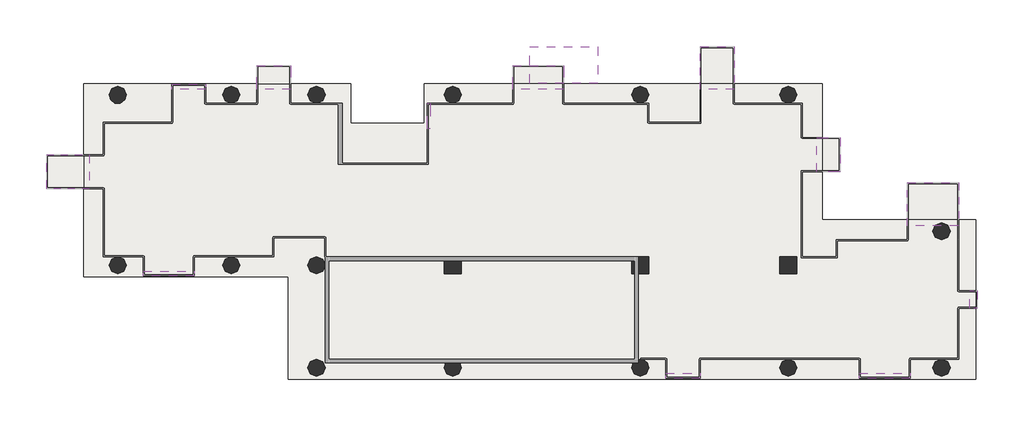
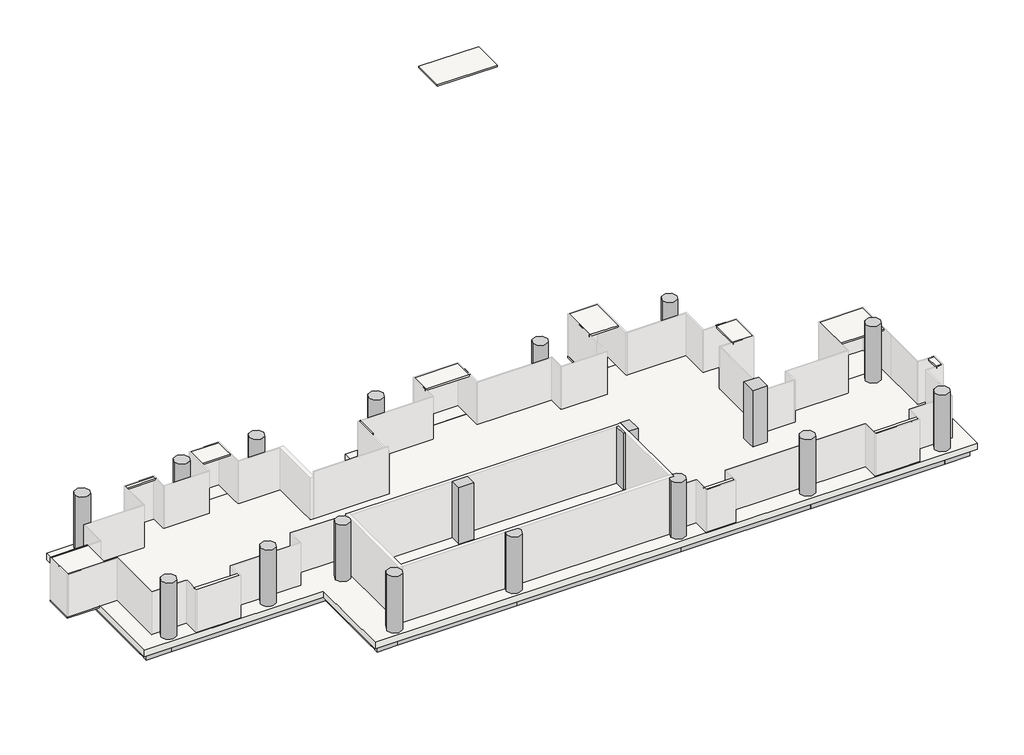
# One storey, part 2 of 2: 40 slabs, 25 beams, 18 columns.
"""IFC4 building model written with IfcOpenShell, lengths in millimetres."""

from ifc_helpers import new_model, si_unit, point, frame, frame_2d, origin, place, context, project, spatial, polyline, circle_curve, trimmed, segment, composite_curve, outline, extrude, transform, mapped, element, save
from components import ajn_arc_ossature_rec_ba_700x600_5242ffbb, ajn_arc_ossature_rec_ba_700x600_213c05e2, ajn_arc_ossature_rec_ba_700x600_4d623bda, ajn_arc_ossature_rec_ba_700x600_c2a8f1af, ajn_arc_ossature_rec_ba_700x600_b2f97811, ajn_arc_ossature_rec_ba_700x600_e688680c, ajn_arc_ossature_rec_ba_700x600_8adee879, ajn_arc_ossature_rec_ba_700x600_6677e51c, ajn_arc_ossature_rec_ba_700x600_60e35d56, ajn_arc_ossature_rec_ba_700x600_9ae0f913, ajn_arc_ossature_rec_ba_700x600_5c14351b, ajn_arc_ossature_rec_ba_700x600_e883967f, ajn_arc_ossature_rec_ba_700x600_0984b03c, ajn_arc_ossature_rec_ba_700x600_78f846f2, ajn_arc_ossature_rec_ba_700x600_e869caa8, ajn_arc_ossature_rec_ba_700x600_0388eb48, ajn_arc_ossature_rec_ba_700x600_e143517c, ajn_arc_ossature_rec_ba_700x600_758f1bfa, ajn_arc_ossature_rec_ba_700x600_64ba80e1, ajn_arc_poteau_circulaire_03b0aea2

model = new_model("IFC4")

# Units and contexts
model_context = context("Model", 3, world=origin())
ifc_project = project(units=[si_unit("LENGTHUNIT", "METRE", prefix="MILLI")], contexts=[model_context])

# Site, building, storey
site = spatial("IfcSite", under=ifc_project)
building = spatial("IfcBuilding", under=site)
storey = spatial("IfcBuildingStorey", under=building, Name="TW-L 12", Elevation=42399.9999686)

# Beams
placement = place(None, origin())
ajn_arc_ossature_rec_ba_700x600_shape = ajn_arc_ossature_rec_ba_700x600_5242ffbb(model_context)
element("IfcBeam", 1, ObjectType="AJN-ARC-OSSATURE REC-BA : 700x600", at=placement, inside=storey, context=model_context, shape_type="MappedRepresentation", body=[
    mapped(ajn_arc_ossature_rec_ba_700x600_shape, transform((119350.0, 39300.0, 41849.9999686), x_axis=(-1.0, 0.0, 0.0), y_axis=(0.0, -1.0, 0.0), z_axis=(0.0, 0.0, 1.0))),
])
ajn_arc_ossature_rec_ba_700x600_2_shape = ajn_arc_ossature_rec_ba_700x600_213c05e2(model_context)
element("IfcBeam", 2, ObjectType="AJN-ARC-OSSATURE REC-BA : 700x600", at=placement, inside=storey, context=model_context, shape_type="MappedRepresentation", body=[
    mapped(ajn_arc_ossature_rec_ba_700x600_2_shape, transform((100900.0, 34800.0, 41849.9999686), x_axis=(0.0, -1.0, 0.0), y_axis=(1.0, 0.0, 0.0), z_axis=(0.0, 0.0, 1.0))),
])
ajn_arc_ossature_rec_ba_700x600_3_shape = ajn_arc_ossature_rec_ba_700x600_4d623bda(model_context)
element("IfcBeam", 3, ObjectType="AJN-ARC-OSSATURE REC-BA : 700x600", at=placement, inside=storey, context=model_context, shape_type="MappedRepresentation", body=[
    mapped(ajn_arc_ossature_rec_ba_700x600_3_shape, transform((112150.0, 24900.0, 41849.9999686), x_axis=(1.0, 0.0, 0.0), y_axis=(0.0, 1.0, 0.0), z_axis=(0.0, 0.0, 1.0))),
])
ajn_arc_ossature_rec_ba_700x600_4_shape = ajn_arc_ossature_rec_ba_700x600_c2a8f1af(model_context)
element("IfcBeam", 4, ObjectType="AJN-ARC-OSSATURE REC-BA : 700x600", at=placement, inside=storey, context=model_context, shape_type="MappedRepresentation", body=[
    mapped(ajn_arc_ossature_rec_ba_700x600_4_shape, transform((116200.0, 24900.0, 41849.9999686), x_axis=(1.0, 0.0, 0.0), y_axis=(0.0, 1.0, 0.0), z_axis=(0.0, 0.0, 1.0))),
])
ajn_arc_ossature_rec_ba_700x600_5_shape = ajn_arc_ossature_rec_ba_700x600_b2f97811(model_context)
element("IfcBeam", 5, ObjectType="AJN-ARC-OSSATURE REC-BA : 700x600", at=placement, inside=storey, context=model_context, shape_type="MappedRepresentation", body=[
    mapped(ajn_arc_ossature_rec_ba_700x600_5_shape, transform((106900.0, 30300.0, 41849.9999686), x_axis=(1.0, 0.0, 0.0), y_axis=(0.0, 1.0, 0.0), z_axis=(0.0, 0.0, 1.0))),
])
ajn_arc_ossature_rec_ba_700x600_6_shape = ajn_arc_ossature_rec_ba_700x600_e688680c(model_context)
element("IfcBeam", 6, ObjectType="AJN-ARC-OSSATURE REC-BA : 700x600", at=placement, inside=storey, context=model_context, shape_type="MappedRepresentation", body=[
    mapped(ajn_arc_ossature_rec_ba_700x600_6_shape, transform((111700.0, 27600.0, 41849.9999686), x_axis=(0.0, -1.0, 0.0), y_axis=(1.0, 0.0, 0.0), z_axis=(0.0, 0.0, 1.0))),
])
ajn_arc_ossature_rec_ba_700x600_7_shape = ajn_arc_ossature_rec_ba_700x600_8adee879(model_context)
element("IfcBeam", 7, ObjectType="AJN-ARC-OSSATURE REC-BA : 700x600", at=placement, inside=storey, context=model_context, shape_type="MappedRepresentation", body=[
    mapped(ajn_arc_ossature_rec_ba_700x600_7_shape, transform((124750.0, 24900.0, 41849.9999686), x_axis=(1.0, 0.0, 0.0), y_axis=(0.0, 1.0, 0.0), z_axis=(0.0, 0.0, 1.0))),
])
element("IfcBeam", 8, ObjectType="AJN-ARC-OSSATURE REC-BA : 700x600", at=placement, inside=storey, context=model_context, shape_type="MappedRepresentation", body=[
    mapped(ajn_arc_ossature_rec_ba_700x600_7_shape, transform((124750.0, 39300.0, 41849.9999686), x_axis=(-1.0, 0.0, 0.0), y_axis=(0.0, -1.0, 0.0), z_axis=(0.0, 0.0, 1.0))),
])
ajn_arc_ossature_rec_ba_700x600_8_shape = ajn_arc_ossature_rec_ba_700x600_6677e51c(model_context)
element("IfcBeam", 9, ObjectType="AJN-ARC-OSSATURE REC-BA : 700x600", at=placement, inside=storey, context=model_context, shape_type="MappedRepresentation", body=[
    mapped(ajn_arc_ossature_rec_ba_700x600_8_shape, transform((133600.0, 24900.0, 41849.9999686), x_axis=(1.0, 0.0, 0.0), y_axis=(0.0, 1.0, 0.0), z_axis=(0.0, 0.0, 1.0))),
])
ajn_arc_ossature_rec_ba_700x600_9_shape = ajn_arc_ossature_rec_ba_700x600_60e35d56(model_context)
element("IfcBeam", 10, ObjectType="AJN-ARC-OSSATURE REC-BA : 700x600", at=placement, inside=storey, context=model_context, shape_type="MappedRepresentation", body=[
    mapped(ajn_arc_ossature_rec_ba_700x600_9_shape, transform((141550.0, 24900.0, 41849.9999686), x_axis=(1.0, 0.0, 0.0), y_axis=(0.0, 1.0, 0.0), z_axis=(0.0, 0.0, 1.0))),
])
ajn_arc_ossature_rec_ba_700x600_10_shape = ajn_arc_ossature_rec_ba_700x600_9ae0f913(model_context)
element("IfcBeam", 11, ObjectType="AJN-ARC-OSSATURE REC-BA : 700x600", at=placement, inside=storey, context=model_context, shape_type="MappedRepresentation", body=[
    mapped(ajn_arc_ossature_rec_ba_700x600_10_shape, transform((146200.0, 24900.0, 41849.9999686), x_axis=(1.0, 0.0, 0.0), y_axis=(0.0, 1.0, 0.0), z_axis=(0.0, 0.0, 1.0))),
])
element("IfcBeam", 12, ObjectType="AJN-ARC-OSSATURE REC-BA : 700x600", at=placement, inside=storey, context=model_context, shape_type="MappedRepresentation", body=[
    mapped(ajn_arc_ossature_rec_ba_700x600_10_shape, transform((101500.0, 39300.0, 41849.9999686), x_axis=(-1.0, 0.0, 0.0), y_axis=(0.0, -1.0, 0.0), z_axis=(0.0, 0.0, 1.0))),
])
ajn_arc_ossature_rec_ba_700x600_11_shape = ajn_arc_ossature_rec_ba_700x600_5c14351b(model_context)
element("IfcBeam", 13, ObjectType="AJN-ARC-OSSATURE REC-BA : 700x600", at=placement, inside=storey, context=model_context, shape_type="MappedRepresentation", body=[
    mapped(ajn_arc_ossature_rec_ba_700x600_11_shape, transform((146800.0, 28500.0, 41849.9999686), x_axis=(0.0, 1.0, 0.0), y_axis=(-1.0, 0.0, 0.0), z_axis=(0.0, 0.0, 1.0))),
])
element("IfcBeam", 14, ObjectType="AJN-ARC-OSSATURE REC-BA : 700x600", at=placement, inside=storey, context=model_context, shape_type="MappedRepresentation", body=[
    mapped(ajn_arc_ossature_rec_ba_700x600_11_shape, transform((138700.0, 35700.0, 41849.9999686), x_axis=(0.0, 1.0, 0.0), y_axis=(-1.0, 0.0, 0.0), z_axis=(0.0, 0.0, 1.0))),
])
ajn_arc_ossature_rec_ba_700x600_12_shape = ajn_arc_ossature_rec_ba_700x600_e883967f(model_context)
element("IfcBeam", 15, ObjectType="AJN-ARC-OSSATURE REC-BA : 700x600", at=placement, inside=storey, context=model_context, shape_type="MappedRepresentation", body=[
    mapped(ajn_arc_ossature_rec_ba_700x600_12_shape, transform((146200.0, 32100.0, 41849.9999686), x_axis=(-1.0, 0.0, 0.0), y_axis=(0.0, -1.0, 0.0), z_axis=(0.0, 0.0, 1.0))),
])
element("IfcBeam", 16, ObjectType="AJN-ARC-OSSATURE REC-BA : 700x600", at=placement, inside=storey, context=model_context, shape_type="MappedRepresentation", body=[
    mapped(ajn_arc_ossature_rec_ba_700x600_12_shape, transform((138100.0, 39300.0, 41849.9999686), x_axis=(-1.0, 0.0, 0.0), y_axis=(0.0, -1.0, 0.0), z_axis=(0.0, 0.0, 1.0))),
])
element("IfcBeam", 17, ObjectType="AJN-ARC-OSSATURE REC-BA : 700x600", at=placement, inside=storey, context=model_context, shape_type="MappedRepresentation", body=[
    mapped(ajn_arc_ossature_rec_ba_700x600_12_shape, transform((113200.0, 39300.0, 41849.9999686), x_axis=(-1.0, 0.0, 0.0), y_axis=(0.0, -1.0, 0.0), z_axis=(0.0, 0.0, 1.0))),
])
element("IfcBeam", 18, ObjectType="AJN-ARC-OSSATURE REC-BA : 700x600", at=placement, inside=storey, context=model_context, shape_type="MappedRepresentation", body=[
    mapped(ajn_arc_ossature_rec_ba_700x600_12_shape, transform((101500.0, 30300.0, 41849.9999686), x_axis=(1.0, 0.0, 0.0), y_axis=(0.0, 1.0, 0.0), z_axis=(0.0, 0.0, 1.0))),
])
ajn_arc_ossature_rec_ba_700x600_13_shape = ajn_arc_ossature_rec_ba_700x600_0984b03c(model_context)
element("IfcBeam", 19, ObjectType="AJN-ARC-OSSATURE REC-BA : 700x600", at=placement, inside=storey, context=model_context, shape_type="MappedRepresentation", body=[
    mapped(ajn_arc_ossature_rec_ba_700x600_13_shape, transform((142150.0, 32100.0, 41849.9999686), x_axis=(-1.0, 0.0, 0.0), y_axis=(0.0, -1.0, 0.0), z_axis=(0.0, 0.0, 1.0))),
])
ajn_arc_ossature_rec_ba_700x600_14_shape = ajn_arc_ossature_rec_ba_700x600_78f846f2(model_context)
element("IfcBeam", 20, ObjectType="AJN-ARC-OSSATURE REC-BA : 700x600", at=placement, inside=storey, context=model_context, shape_type="MappedRepresentation", body=[
    mapped(ajn_arc_ossature_rec_ba_700x600_14_shape, transform((133600.0, 39300.0, 41849.9999686), x_axis=(-1.0, 0.0, 0.0), y_axis=(0.0, -1.0, 0.0), z_axis=(0.0, 0.0, 1.0))),
])
ajn_arc_ossature_rec_ba_700x600_15_shape = ajn_arc_ossature_rec_ba_700x600_e869caa8(model_context)
element("IfcBeam", 21, ObjectType="AJN-ARC-OSSATURE REC-BA : 700x600", at=placement, inside=storey, context=model_context, shape_type="MappedRepresentation", body=[
    mapped(ajn_arc_ossature_rec_ba_700x600_15_shape, transform((118900.0, 38250.0, 41849.9999686), x_axis=(0.0, -1.0, 0.0), y_axis=(1.0, 0.0, 0.0), z_axis=(0.0, 0.0, 1.0))),
])
ajn_arc_ossature_rec_ba_700x600_16_shape = ajn_arc_ossature_rec_ba_700x600_0388eb48(model_context)
element("IfcBeam", 22, ObjectType="AJN-ARC-OSSATURE REC-BA : 700x600", at=placement, inside=storey, context=model_context, shape_type="MappedRepresentation", body=[
    mapped(ajn_arc_ossature_rec_ba_700x600_16_shape, transform((110350.0, 39300.0, 41849.9999686), x_axis=(-1.0, 0.0, 0.0), y_axis=(0.0, -1.0, 0.0), z_axis=(0.0, 0.0, 1.0))),
])
ajn_arc_ossature_rec_ba_700x600_17_shape = ajn_arc_ossature_rec_ba_700x600_e143517c(model_context)
element("IfcBeam", 23, ObjectType="AJN-ARC-OSSATURE REC-BA : 700x600", at=placement, inside=storey, context=model_context, shape_type="MappedRepresentation", body=[
    mapped(ajn_arc_ossature_rec_ba_700x600_17_shape, transform((105100.0, 39300.0, 41849.9999686), x_axis=(-1.0, 0.0, 0.0), y_axis=(0.0, -1.0, 0.0), z_axis=(0.0, 0.0, 1.0))),
])
ajn_arc_ossature_rec_ba_700x600_18_shape = ajn_arc_ossature_rec_ba_700x600_758f1bfa(model_context)
element("IfcBeam", 24, ObjectType="AJN-ARC-OSSATURE REC-BA : 700x600", at=placement, inside=storey, context=model_context, shape_type="MappedRepresentation", body=[
    mapped(ajn_arc_ossature_rec_ba_700x600_18_shape, transform((116350.0, 37200.0, 41849.9999686), x_axis=(-1.0, 0.0, 0.0), y_axis=(0.0, -1.0, 0.0), z_axis=(0.0, 0.0, 1.0))),
])
ajn_arc_ossature_rec_ba_700x600_19_shape = ajn_arc_ossature_rec_ba_700x600_64ba80e1(model_context)
element("IfcBeam", 25, ObjectType="AJN-ARC-OSSATURE REC-BA : 700x600", at=placement, inside=storey, context=model_context, shape_type="MappedRepresentation", body=[
    mapped(ajn_arc_ossature_rec_ba_700x600_19_shape, transform((113800.0, 38250.0, 41849.9999686), x_axis=(0.0, 1.0, 0.0), y_axis=(-1.0, 0.0, 0.0), z_axis=(0.0, 0.0, 1.0))),
])

# Columns
element("IfcColumn", 26, ObjectType="AJN-ARC-POTEAU CIRCULAIRE : ø90", at=placement, inside=storey, context=model_context, shape_type="SweptSolid", body=[
    extrude(outline(composite_curve([segment(trimmed(circle_curve(frame_2d((102100.0, 30300.0)), 450.0), [point((101650.0, 30300.0))], [point((102550.0, 30300.0))], False, "CARTESIAN"), True, "CONTINUOUS"), segment(trimmed(circle_curve(frame_2d((102100.0, 30300.0)), 450.0), [point((102550.0, 30300.0))], [point((101650.0, 30300.0))], False, "CARTESIAN"), True, "CONTINUOUS")], self_intersect=False)), frame((0.0, 0.0, 42399.9999686), z_axis=(0.0, 0.0, 1.0), x_axis=(1.0, 0.0, 0.0)), (0.0, 0.0, 1.0), 3600.0),
])
element("IfcColumn", 27, ObjectType="AJN-ARC-POTEAU CIRCULAIRE : ø90", at=placement, inside=storey, context=model_context, shape_type="SweptSolid", body=[
    extrude(outline(composite_curve([segment(trimmed(circle_curve(frame_2d((108100.0, 30300.0)), 450.0), [point((107650.0, 30300.0))], [point((108550.0, 30300.0))], False, "CARTESIAN"), True, "CONTINUOUS"), segment(trimmed(circle_curve(frame_2d((108100.0, 30300.0)), 450.0), [point((108550.0, 30300.0))], [point((107650.0, 30300.0))], False, "CARTESIAN"), True, "CONTINUOUS")], self_intersect=False)), frame((0.0, 0.0, 42399.9999686), z_axis=(0.0, 0.0, 1.0), x_axis=(1.0, 0.0, 0.0)), (0.0, 0.0, 1.0), 3600.0),
])
element("IfcColumn", 28, ObjectType="AJN-ARC-POTEAU CIRCULAIRE : ø90", at=placement, inside=storey, context=model_context, shape_type="SweptSolid", body=[
    extrude(outline(composite_curve([segment(trimmed(circle_curve(frame_2d((108100.0, 39300.0)), 450.0), [point((107650.0, 39300.0))], [point((108550.0, 39300.0))], False, "CARTESIAN"), True, "CONTINUOUS"), segment(trimmed(circle_curve(frame_2d((108100.0, 39300.0)), 450.0), [point((108550.0, 39300.0))], [point((107650.0, 39300.0))], False, "CARTESIAN"), True, "CONTINUOUS")], self_intersect=False)), frame((0.0, 0.0, 42399.9999686), z_axis=(0.0, 0.0, 1.0), x_axis=(1.0, 0.0, 0.0)), (0.0, 0.0, 1.0), 3600.0),
])
element("IfcColumn", 29, ObjectType="AJN-ARC-POTEAU CIRCULAIRE : ø90", at=placement, inside=storey, context=model_context, shape_type="SweptSolid", body=[
    extrude(outline(composite_curve([segment(trimmed(circle_curve(frame_2d((112600.0, 39300.0)), 450.0), [point((112150.0, 39300.0))], [point((113050.0, 39300.0))], False, "CARTESIAN"), True, "CONTINUOUS"), segment(trimmed(circle_curve(frame_2d((112600.0, 39300.0)), 450.0), [point((113050.0, 39300.0))], [point((112150.0, 39300.0))], False, "CARTESIAN"), True, "CONTINUOUS")], self_intersect=False)), frame((0.0, 0.0, 42399.9999686), z_axis=(0.0, 0.0, 1.0), x_axis=(1.0, 0.0, 0.0)), (0.0, 0.0, 1.0), 3600.0),
])
element("IfcColumn", 30, ObjectType="AJN-ARC-POTEAU CIRCULAIRE : ø90", at=placement, inside=storey, context=model_context, shape_type="SweptSolid", body=[
    extrude(outline(composite_curve([segment(trimmed(circle_curve(frame_2d((112600.0, 30300.0)), 450.0), [point((112150.0, 30300.0))], [point((113050.0, 30300.0))], False, "CARTESIAN"), True, "CONTINUOUS"), segment(trimmed(circle_curve(frame_2d((112600.0, 30300.0)), 450.0), [point((113050.0, 30300.0))], [point((112150.0, 30300.0))], False, "CARTESIAN"), True, "CONTINUOUS")], self_intersect=False)), frame((0.0, 0.0, 42399.9999686), z_axis=(0.0, 0.0, 1.0), x_axis=(1.0, 0.0, 0.0)), (0.0, 0.0, 1.0), 3600.0),
])
element("IfcColumn", 31, ObjectType="AJN-ARC-POTEAU CIRCULAIRE : ø90", at=placement, inside=storey, context=model_context, shape_type="SweptSolid", body=[
    extrude(outline(composite_curve([segment(trimmed(circle_curve(frame_2d((112600.0, 24900.0)), 450.0), [point((112150.0, 24900.0))], [point((113050.0, 24900.0))], False, "CARTESIAN"), True, "CONTINUOUS"), segment(trimmed(circle_curve(frame_2d((112600.0, 24900.0)), 450.0), [point((113050.0, 24900.0))], [point((112150.0, 24900.0))], False, "CARTESIAN"), True, "CONTINUOUS")], self_intersect=False)), frame((0.0, 0.0, 42399.9999686), z_axis=(0.0, 0.0, 1.0), x_axis=(1.0, 0.0, 0.0)), (0.0, 0.0, 1.0), 3600.0),
])
element("IfcColumn", 32, ObjectType="AJN-ARC-POTEAU CIRCULAIRE : ø90", at=placement, inside=storey, context=model_context, shape_type="SweptSolid", body=[
    extrude(outline(composite_curve([segment(trimmed(circle_curve(frame_2d((119800.0, 24900.0)), 450.0), [point((120250.0, 24900.0))], [point((119350.0, 24900.0))], False, "CARTESIAN"), True, "CONTINUOUS"), segment(trimmed(circle_curve(frame_2d((119800.0, 24900.0)), 450.0), [point((119350.0, 24900.0))], [point((119425.8342613, 25150.0))], False, "CARTESIAN"), True, "CONTINUOUS"), segment(polyline([(119425.8342613, 25150.0), (120174.1657387, 25150.0)]), True, "CONTINUOUS"), segment(trimmed(circle_curve(frame_2d((119800.0, 24900.0)), 450.0), [point((120174.1657387, 25150.0))], [point((120250.0, 24900.0))], False, "CARTESIAN"), True, "CONTINUOUS")], self_intersect=False)), frame((0.0, 0.0, 42399.9999686), z_axis=(0.0, 0.0, 1.0), x_axis=(1.0, 0.0, 0.0)), (0.0, 0.0, 1.0), 3600.0),
])
element("IfcColumn", 33, ObjectType="AJN-ARC-POTEAU CIRCULAIRE : ø90", at=placement, inside=storey, context=model_context, shape_type="SweptSolid", body=[
    extrude(outline(composite_curve([segment(trimmed(circle_curve(frame_2d((119800.0, 39300.0)), 450.0), [point((119350.0, 39300.0))], [point((120250.0, 39300.0))], False, "CARTESIAN"), True, "CONTINUOUS"), segment(trimmed(circle_curve(frame_2d((119800.0, 39300.0)), 450.0), [point((120250.0, 39300.0))], [point((119350.0, 39300.0))], False, "CARTESIAN"), True, "CONTINUOUS")], self_intersect=False)), frame((0.0, 0.0, 42399.9999686), z_axis=(0.0, 0.0, 1.0), x_axis=(1.0, 0.0, 0.0)), (0.0, 0.0, 1.0), 3600.0),
])
element("IfcColumn", 34, ObjectType="AJN-ARC-POTEAU CIRCULAIRE : ø90", at=placement, inside=storey, context=model_context, shape_type="SweptSolid", body=[
    extrude(outline(composite_curve([segment(trimmed(circle_curve(frame_2d((129700.0, 39300.0)), 450.0), [point((129250.0, 39300.0))], [point((130150.0, 39300.0))], False, "CARTESIAN"), True, "CONTINUOUS"), segment(trimmed(circle_curve(frame_2d((129700.0, 39300.0)), 450.0), [point((130150.0, 39300.0))], [point((129250.0, 39300.0))], False, "CARTESIAN"), True, "CONTINUOUS")], self_intersect=False)), frame((0.0, 0.0, 42399.9999686), z_axis=(0.0, 0.0, 1.0), x_axis=(1.0, 0.0, 0.0)), (0.0, 0.0, 1.0), 3600.0),
])
element("IfcColumn", 35, ObjectType="AJN-ARC-POTEAU CIRCULAIRE : ø90", at=placement, inside=storey, context=model_context, shape_type="SweptSolid", body=[
    extrude(outline(composite_curve([segment(trimmed(circle_curve(frame_2d((129700.0, 24900.0)), 450.0), [point((130150.0, 24900.0))], [point((129250.0, 24900.0))], False, "CARTESIAN"), True, "CONTINUOUS"), segment(trimmed(circle_curve(frame_2d((129700.0, 24900.0)), 450.0), [point((129250.0, 24900.0))], [point((129325.8342613, 25150.0))], False, "CARTESIAN"), True, "CONTINUOUS"), segment(polyline([(129325.8342613, 25150.0), (129600.0, 25150.0), (129600.0, 25338.7482194)]), True, "CONTINUOUS"), segment(trimmed(circle_curve(frame_2d((129700.0, 24900.0)), 450.0), [point((129600.0, 25338.7482194))], [point((130150.0, 24900.0))], False, "CARTESIAN"), True, "CONTINUOUS")], self_intersect=False)), frame((0.0, 0.0, 42399.9999686), z_axis=(0.0, 0.0, 1.0), x_axis=(1.0, 0.0, 0.0)), (0.0, 0.0, 1.0), 3600.0),
])
element("IfcColumn", 36, ObjectType="AJN-ARC-POTEAU CIRCULAIRE : ø90", at=placement, inside=storey, context=model_context, shape_type="SweptSolid", body=[
    extrude(outline(composite_curve([segment(trimmed(circle_curve(frame_2d((137500.0, 39300.0)), 450.0), [point((137050.0, 39300.0))], [point((137950.0, 39300.0))], False, "CARTESIAN"), True, "CONTINUOUS"), segment(trimmed(circle_curve(frame_2d((137500.0, 39300.0)), 450.0), [point((137950.0, 39300.0))], [point((137050.0, 39300.0))], False, "CARTESIAN"), True, "CONTINUOUS")], self_intersect=False)), frame((0.0, 0.0, 42399.9999686), z_axis=(0.0, 0.0, 1.0), x_axis=(1.0, 0.0, 0.0)), (0.0, 0.0, 1.0), 3600.0),
])
element("IfcColumn", 37, ObjectType="AJN-ARC-POTEAU CIRCULAIRE : ø90", at=placement, inside=storey, context=model_context, shape_type="SweptSolid", body=[
    extrude(outline(composite_curve([segment(trimmed(circle_curve(frame_2d((137500.0, 24900.0)), 450.0), [point((137050.0, 24900.0))], [point((137950.0, 24900.0))], False, "CARTESIAN"), True, "CONTINUOUS"), segment(trimmed(circle_curve(frame_2d((137500.0, 24900.0)), 450.0), [point((137950.0, 24900.0))], [point((137050.0, 24900.0))], False, "CARTESIAN"), True, "CONTINUOUS")], self_intersect=False)), frame((0.0, 0.0, 42399.9999686), z_axis=(0.0, 0.0, 1.0), x_axis=(1.0, 0.0, 0.0)), (0.0, 0.0, 1.0), 3600.0),
])
element("IfcColumn", 38, ObjectType="AJN-ARC-POTEAU CIRCULAIRE : ø90", at=placement, inside=storey, context=model_context, shape_type="SweptSolid", body=[
    extrude(outline(composite_curve([segment(trimmed(circle_curve(frame_2d((145600.0, 24900.0)), 450.0), [point((145150.0, 24900.0))], [point((146050.0, 24900.0))], False, "CARTESIAN"), True, "CONTINUOUS"), segment(trimmed(circle_curve(frame_2d((145600.0, 24900.0)), 450.0), [point((146050.0, 24900.0))], [point((145150.0, 24900.0))], False, "CARTESIAN"), True, "CONTINUOUS")], self_intersect=False)), frame((0.0, 0.0, 42399.9999686), z_axis=(0.0, 0.0, 1.0), x_axis=(1.0, 0.0, 0.0)), (0.0, 0.0, 1.0), 3600.0),
])
element("IfcColumn", 39, ObjectType="AJN-ARC-POTEAU CIRCULAIRE : ø90", at=placement, inside=storey, context=model_context, shape_type="SweptSolid", body=[
    extrude(outline(composite_curve([segment(trimmed(circle_curve(frame_2d((145600.0, 32100.0)), 450.0), [point((145150.0, 32100.0))], [point((146050.0, 32100.0))], False, "CARTESIAN"), True, "CONTINUOUS"), segment(trimmed(circle_curve(frame_2d((145600.0, 32100.0)), 450.0), [point((146050.0, 32100.0))], [point((145150.0, 32100.0))], False, "CARTESIAN"), True, "CONTINUOUS")], self_intersect=False)), frame((0.0, 0.0, 42399.9999686), z_axis=(0.0, 0.0, 1.0), x_axis=(1.0, 0.0, 0.0)), (0.0, 0.0, 1.0), 3600.0),
])
ajn_arc_poteau_circulaire_shape = ajn_arc_poteau_circulaire_03b0aea2(model_context)
element("IfcColumn", 40, ObjectType="AJN-ARC-POTEAU CIRCULAIRE : ø90", at=placement, inside=storey, context=model_context, shape_type="MappedRepresentation", body=[
    mapped(ajn_arc_poteau_circulaire_shape, transform((102100.0, 39300.0, 0.0), x_axis=(1.0, 0.0, 0.0), y_axis=(0.0, 1.0, 0.0), z_axis=(0.0, 0.0, 1.0))),
])
element("IfcColumn", 41, ObjectType="AJN-ARC-POTEAU RECTANGULAIRE : 900 mm x 900 mm", at=placement, inside=storey, context=model_context, shape_type="SweptSolid", body=[
    extrude(outline(polyline([(137950.0, 30750.0), (137950.0, 29850.0), (137050.0, 29850.0), (137050.0, 30750.0), (137950.0, 30750.0)])), frame((0.0, 0.0, 42399.9999686), z_axis=(0.0, 0.0, 1.0), x_axis=(1.0, 0.0, 0.0)), (0.0, 0.0, 1.0), 3600.0),
])
element("IfcColumn", 42, ObjectType="AJN-ARC-POTEAU RECTANGULAIRE : 900 mm x 900 mm", at=placement, inside=storey, context=model_context, shape_type="SweptSolid", body=[
    extrude(outline(polyline([(129400.0, 29850.0), (129250.0, 29850.0), (129250.0, 30550.0), (129400.0, 30550.0), (129400.0, 29850.0)])), frame((0.0, 0.0, 42399.9999686), z_axis=(0.0, 0.0, 1.0), x_axis=(1.0, 0.0, 0.0)), (0.0, 0.0, 1.0), 3600.0),
    extrude(outline(polyline([(130150.0, 30750.0), (130150.0, 29850.0), (129600.0, 29850.0), (129600.0, 30750.0), (130150.0, 30750.0)])), frame((0.0, 0.0, 42399.9999686), z_axis=(0.0, 0.0, 1.0), x_axis=(1.0, 0.0, 0.0)), (0.0, 0.0, 1.0), 3600.0),
])
element("IfcColumn", 43, ObjectType="AJN-ARC-POTEAU RECTANGULAIRE : 900 mm x 900 mm", at=placement, inside=storey, context=model_context, shape_type="SweptSolid", body=[
    extrude(outline(polyline([(120250.0, 29850.0), (119350.0, 29850.0), (119350.0, 30550.0), (120250.0, 30550.0), (120250.0, 29850.0)])), frame((0.0, 0.0, 42399.9999686), z_axis=(0.0, 0.0, 1.0), x_axis=(1.0, 0.0, 0.0)), (0.0, 0.0, 1.0), 3600.0),
])

# Slabs
element("IfcSlab", 44, ObjectType="AJN-ARC-SLAB-10cm", at=placement, inside=storey, context=model_context, shape_type="SweptSolid", body=[
    extrude(outline(polyline([(147497.681474, 28048.8142781), (147400.0, 28048.8142781), (147400.0, 28948.8142781), (147497.681474, 28948.8142781), (147497.681474, 28048.8142781)])), frame((0.0, 0.0, 42299.9999686), z_axis=(0.0, 0.0, 1.0), x_axis=(1.0, 0.0, 0.0)), (0.0, 0.0, 1.0), 100.0),
])
element("IfcSlab", 45, ObjectType="AJN-ARC-SLAB-10cm", at=placement, inside=storey, context=model_context, shape_type="SweptSolid", body=[
    extrude(outline(polyline([(111250.0, 39900.0), (109450.0, 39900.0), (109450.0, 40850.0), (111250.0, 40850.0), (111250.0, 39900.0)])), frame((0.0, 0.0, 42299.9999686), z_axis=(0.0, 0.0, 1.0), x_axis=(1.0, 0.0, 0.0)), (0.0, 0.0, 1.0), 100.0),
])
element("IfcSlab", 46, ObjectType="AJN-ARC-SLAB-10cm", at=placement, inside=storey, context=model_context, shape_type="SweptSolid", body=[
    extrude(outline(polyline([(125660.049155, 39900.0), (122960.049155, 39900.0), (122960.049155, 40850.0), (125660.049155, 40850.0), (125660.049155, 39900.0)])), frame((0.0, 0.0, 42299.9999686), z_axis=(0.0, 0.0, 1.0), x_axis=(1.0, 0.0, 0.0)), (0.0, 0.0, 1.0), 100.0),
])
element("IfcSlab", 47, ObjectType="AJN-ARC-SLAB-10cm", at=placement, inside=storey, context=model_context, shape_type="SweptSolid", body=[
    extrude(outline(polyline([(140250.0, 35250.0), (139300.0, 35250.0), (139300.0, 37050.0), (140250.0, 37050.0), (140250.0, 35250.0)])), frame((0.0, 0.0, 42299.9999686), z_axis=(0.0, 0.0, 1.0), x_axis=(1.0, 0.0, 0.0)), (0.0, 0.0, 1.0), 100.0),
])
element("IfcSlab", 48, ObjectType="AJN-ARC-SLAB-10cm", at=placement, inside=storey, context=model_context, shape_type="SweptSolid", body=[
    extrude(outline(polyline([(134650.0, 39900.0), (132850.0, 39900.0), (132850.0, 41850.0), (134650.0, 41850.0), (134650.0, 39900.0)])), frame((0.0, 0.0, 42299.9999686), z_axis=(0.0, 0.0, 1.0), x_axis=(1.0, 0.0, 0.0)), (0.0, 0.0, 1.0), 100.0),
])
element("IfcSlab", 49, ObjectType="AJN-ARC-SLAB-10cm", at=placement, inside=storey, context=model_context, shape_type="SweptSolid", body=[
    extrude(outline(polyline([(146497.681474, 32700.0), (143797.681474, 32700.0), (143797.681474, 34651.6593424), (146497.681474, 34651.6593424), (146497.681474, 32700.0)])), frame((0.0, 0.0, 42299.9999686), z_axis=(0.0, 0.0, 1.0), x_axis=(1.0, 0.0, 0.0)), (0.0, 0.0, 1.0), 100.0),
])
element("IfcSlab", 50, ObjectType="AJN-ARC-SLAB-10cm", at=placement, inside=storey, context=model_context, shape_type="SweptSolid", body=[
    extrude(outline(polyline([(100300.0, 34350.0), (98347.1743518, 34350.0), (98347.1743518, 36150.0), (100300.0, 36150.0), (100300.0, 34350.0)])), frame((0.0, 0.0, 42299.9999686), z_axis=(0.0, 0.0, 1.0), x_axis=(1.0, 0.0, 0.0)), (0.0, 0.0, 1.0), 100.0),
])
element("IfcSlab", 51, ObjectType="AJN-ARC-SLAB-10cm", at=placement, inside=storey, context=model_context, shape_type="SweptSolid", body=[
    extrude(outline(polyline([(100300.0, 34350.0), (98347.1743518, 34350.0), (98347.1743518, 36150.0), (100300.0, 36150.0), (100300.0, 34350.0)])), frame((0.0, 0.0, 42299.9999686), z_axis=(0.0, 0.0, 1.0), x_axis=(1.0, 0.0, 0.0)), (0.0, 0.0, 1.0), 100.0),
])
element("IfcSlab", 52, ObjectType="AJN-ARC-SLAB-10cm", at=placement, inside=storey, context=model_context, shape_type="SweptSolid", body=[
    extrude(outline(polyline([(100300.0, 34350.0), (98347.1743518, 34350.0), (98347.1743518, 36150.0), (100300.0, 36150.0), (100300.0, 34350.0)])), frame((0.0, 0.0, 42299.9999686), z_axis=(0.0, 0.0, 1.0), x_axis=(1.0, 0.0, 0.0)), (0.0, 0.0, 1.0), 100.0),
])
element("IfcSlab", 53, ObjectType="AJN-ARC-SLAB-10cm", at=placement, inside=storey, context=model_context, shape_type="SweptSolid", body=[
    extrude(outline(polyline([(100300.0, 34350.0), (98347.1743518, 34350.0), (98347.1743518, 36150.0), (100300.0, 36150.0), (100300.0, 34350.0)])), frame((0.0, 0.0, 42299.9999686), z_axis=(0.0, 0.0, 1.0), x_axis=(1.0, 0.0, 0.0)), (0.0, 0.0, 1.0), 100.0),
])
element("IfcSlab", 54, ObjectType="AJN-ARC-SLAB-10cm", at=placement, inside=storey, context=model_context, shape_type="SweptSolid", body=[
    extrude(outline(polyline([(100300.0, 34350.0), (98347.1743518, 34350.0), (98347.1743518, 36150.0), (100300.0, 36150.0), (100300.0, 34350.0)])), frame((0.0, 0.0, 42299.9999686), z_axis=(0.0, 0.0, 1.0), x_axis=(1.0, 0.0, 0.0)), (0.0, 0.0, 1.0), 100.0),
])
element("IfcSlab", 55, ObjectType="AJN-ARC-SLAB-10cm", at=placement, inside=storey, context=model_context, shape_type="SweptSolid", body=[
    extrude(outline(polyline([(100300.0, 34350.0), (98347.1743518, 34350.0), (98347.1743518, 36150.0), (100300.0, 36150.0), (100300.0, 34350.0)])), frame((0.0, 0.0, 42299.9999686), z_axis=(0.0, 0.0, 1.0), x_axis=(1.0, 0.0, 0.0)), (0.0, 0.0, 1.0), 100.0),
])
element("IfcSlab", 56, ObjectType="AJN-ARC-SLAB-10cm", at=placement, inside=storey, context=model_context, shape_type="SweptSolid", body=[
    extrude(outline(polyline([(100300.0, 34350.0), (98347.1743518, 34350.0), (98347.1743518, 36150.0), (100300.0, 36150.0), (100300.0, 34350.0)])), frame((0.0, 0.0, 42299.9999686), z_axis=(0.0, 0.0, 1.0), x_axis=(1.0, 0.0, 0.0)), (0.0, 0.0, 1.0), 100.0),
])
element("IfcSlab", 57, ObjectType="AJN-ARC-SLAB-10cm", at=placement, inside=storey, context=model_context, shape_type="SweptSolid", body=[
    extrude(outline(polyline([(100300.0, 34350.0), (98347.1743518, 34350.0), (98347.1743518, 36150.0), (100300.0, 36150.0), (100300.0, 34350.0)])), frame((0.0, 0.0, 42299.9999686), z_axis=(0.0, 0.0, 1.0), x_axis=(1.0, 0.0, 0.0)), (0.0, 0.0, 1.0), 100.0),
])
element("IfcSlab", 58, ObjectType="AJN-ARC-SLAB-10cm", at=placement, inside=storey, context=model_context, shape_type="SweptSolid", body=[
    extrude(outline(polyline([(100300.0, 34350.0), (98347.1743518, 34350.0), (98347.1743518, 36150.0), (100300.0, 36150.0), (100300.0, 34350.0)])), frame((0.0, 0.0, 42299.9999686), z_axis=(0.0, 0.0, 1.0), x_axis=(1.0, 0.0, 0.0)), (0.0, 0.0, 1.0), 100.0),
])
element("IfcSlab", 59, ObjectType="AJN-ARC-SLAB-10cm", at=placement, inside=storey, context=model_context, shape_type="SweptSolid", body=[
    extrude(outline(polyline([(100300.0, 34350.0), (98347.1743518, 34350.0), (98347.1743518, 36150.0), (100300.0, 36150.0), (100300.0, 34350.0)])), frame((0.0, 0.0, 42299.9999686), z_axis=(0.0, 0.0, 1.0), x_axis=(1.0, 0.0, 0.0)), (0.0, 0.0, 1.0), 100.0),
])
element("IfcSlab", 60, ObjectType="AJN-ARC-SLAB-10cm", at=placement, inside=storey, context=model_context, shape_type="SweptSolid", body=[
    extrude(outline(polyline([(100300.0, 34350.0), (98347.1743518, 34350.0), (98347.1743518, 36150.0), (100300.0, 36150.0), (100300.0, 34350.0)])), frame((0.0, 0.0, 42299.9999686), z_axis=(0.0, 0.0, 1.0), x_axis=(1.0, 0.0, 0.0)), (0.0, 0.0, 1.0), 100.0),
])
element("IfcSlab", 61, ObjectType="AJN-ARC-SLAB-10cm", at=placement, inside=storey, context=model_context, shape_type="SweptSolid", body=[
    extrude(outline(polyline([(100300.0, 34350.0), (98347.1743518, 34350.0), (98347.1743518, 36150.0), (100300.0, 36150.0), (100300.0, 34350.0)])), frame((0.0, 0.0, 42299.9999686), z_axis=(0.0, 0.0, 1.0), x_axis=(1.0, 0.0, 0.0)), (0.0, 0.0, 1.0), 100.0),
])
element("IfcSlab", 62, ObjectType="AJN-ARC-SLAB-10cm", at=placement, inside=storey, context=model_context, shape_type="SweptSolid", body=[
    extrude(outline(polyline([(100300.0, 34350.0), (98347.1743518, 34350.0), (98347.1743518, 36150.0), (100300.0, 36150.0), (100300.0, 34350.0)])), frame((0.0, 0.0, 42299.9999686), z_axis=(0.0, 0.0, 1.0), x_axis=(1.0, 0.0, 0.0)), (0.0, 0.0, 1.0), 100.0),
])
element("IfcSlab", 63, ObjectType="AJN-ARC-SLAB-10cm", at=placement, inside=storey, context=model_context, shape_type="SweptSolid", body=[
    extrude(outline(polyline([(106147.1743518, 29750.0), (103447.1743518, 29750.0), (103447.1743518, 30000.0), (106147.1743518, 30000.0), (106147.1743518, 29750.0)])), frame((0.0, 0.0, 44999.9999686), z_axis=(0.0, 0.0, 1.0), x_axis=(1.0, 0.0, 0.0)), (0.0, 0.0, 1.0), 100.0),
])
element("IfcSlab", 64, ObjectType="AJN-ARC-SLAB-10cm", at=placement, inside=storey, context=model_context, shape_type="SweptSolid", body=[
    extrude(outline(polyline([(118600.0, 37500.0), (118450.0, 37500.0), (118450.0, 38850.0), (118600.0, 38850.0), (118600.0, 37500.0)])), frame((0.0, 0.0, 44999.9999686), z_axis=(0.0, 0.0, 1.0), x_axis=(1.0, 0.0, 0.0)), (0.0, 0.0, 1.0), 100.0),
])
element("IfcSlab", 65, ObjectType="AJN-ARC-SLAB-10cm", at=placement, inside=storey, context=model_context, shape_type="SweptSolid", body=[
    extrude(outline(polyline([(125660.049155, 39600.0), (122960.049155, 39600.0), (122960.049155, 40850.0), (125660.049155, 40850.0), (125660.049155, 39600.0)])), frame((0.0, 0.0, 44999.9999686), z_axis=(0.0, 0.0, 1.0), x_axis=(1.0, 0.0, 0.0)), (0.0, 0.0, 1.0), 100.0),
])
element("IfcSlab", 66, ObjectType="AJN-ARC-SLAB-10cm", at=placement, inside=storey, context=model_context, shape_type="SweptSolid", body=[
    extrude(outline(polyline([(106750.0, 39600.0), (104950.0, 39600.0), (104950.0, 39850.0), (106750.0, 39850.0), (106750.0, 39600.0)])), frame((0.0, 0.0, 44999.9999686), z_axis=(0.0, 0.0, 1.0), x_axis=(1.0, 0.0, 0.0)), (0.0, 0.0, 1.0), 100.0),
])
element("IfcSlab", 67, ObjectType="AJN-ARC-SLAB-10cm", at=placement, inside=storey, context=model_context, shape_type="SweptSolid", body=[
    extrude(outline(polyline([(140250.0, 35250.0), (139000.0, 35250.0), (139000.0, 37050.0), (140250.0, 37050.0), (140250.0, 35250.0)])), frame((0.0, 0.0, 44999.9999686), z_axis=(0.0, 0.0, 1.0), x_axis=(1.0, 0.0, 0.0)), (0.0, 0.0, 1.0), 100.0),
])
element("IfcSlab", 68, ObjectType="AJN-ARC-SLAB-10cm", at=placement, inside=storey, context=model_context, shape_type="SweptSolid", body=[
    extrude(outline(polyline([(111250.0, 39600.0), (109450.0, 39600.0), (109450.0, 40850.0), (111250.0, 40850.0), (111250.0, 39600.0)])), frame((0.0, 0.0, 44999.9999686), z_axis=(0.0, 0.0, 1.0), x_axis=(1.0, 0.0, 0.0)), (0.0, 0.0, 1.0), 100.0),
])
element("IfcSlab", 69, ObjectType="AJN-ARC-SLAB-10cm", at=placement, inside=storey, context=model_context, shape_type="SweptSolid", body=[
    extrude(outline(polyline([(100600.0, 34350.0), (98347.1743518, 34350.0), (98347.1743518, 36150.0), (100600.0, 36150.0), (100600.0, 34350.0)])), frame((0.0, 0.0, 44999.9999686), z_axis=(0.0, 0.0, 1.0), x_axis=(1.0, 0.0, 0.0)), (0.0, 0.0, 1.0), 100.0),
])
element("IfcSlab", 70, ObjectType="AJN-ARC-SLAB-10cm", at=placement, inside=storey, context=model_context, shape_type="SweptSolid", body=[
    extrude(outline(polyline([(132850.3663867, 24350.0), (131050.3663867, 24350.0), (131050.3663867, 24600.0), (132850.3663867, 24600.0), (132850.3663867, 24350.0)])), frame((0.0, 0.0, 44999.9999686), z_axis=(0.0, 0.0, 1.0), x_axis=(1.0, 0.0, 0.0)), (0.0, 0.0, 1.0), 100.0),
])
element("IfcSlab", 71, ObjectType="AJN-ARC-SLAB-10cm", at=placement, inside=storey, context=model_context, shape_type="SweptSolid", body=[
    extrude(outline(polyline([(143950.1367307, 24350.0), (141250.1367307, 24350.0), (141250.1367307, 24600.0), (143950.1367307, 24600.0), (143950.1367307, 24350.0)])), frame((0.0, 0.0, 44999.9999686), z_axis=(0.0, 0.0, 1.0), x_axis=(1.0, 0.0, 0.0)), (0.0, 0.0, 1.0), 100.0),
])
element("IfcSlab", 72, ObjectType="AJN-ARC-SLAB-10cm", at=placement, inside=storey, context=model_context, shape_type="SweptSolid", body=[
    extrude(outline(polyline([(134650.0, 39600.0), (132850.0, 39600.0), (132850.0, 41850.0), (134650.0, 41850.0), (134650.0, 39600.0)])), frame((0.0, 0.0, 44999.9999686), z_axis=(0.0, 0.0, 1.0), x_axis=(1.0, 0.0, 0.0)), (0.0, 0.0, 1.0), 100.0),
])
element("IfcSlab", 73, ObjectType="AJN-ARC-SLAB-10cm", at=placement, inside=storey, context=model_context, shape_type="SweptSolid", body=[
    extrude(outline(polyline([(146497.681474, 32400.0), (143797.681474, 32400.0), (143797.681474, 34651.6593424), (146497.681474, 34651.6593424), (146497.681474, 32400.0)])), frame((0.0, 0.0, 44999.9999686), z_axis=(0.0, 0.0, 1.0), x_axis=(1.0, 0.0, 0.0)), (0.0, 0.0, 1.0), 100.0),
])
element("IfcSlab", 74, ObjectType="AJN-ARC-SLAB-10cm", at=placement, inside=storey, context=model_context, shape_type="SweptSolid", body=[
    extrude(outline(polyline([(147497.681474, 28048.8142781), (147100.0, 28048.8142781), (147100.0, 28948.8142781), (147497.681474, 28948.8142781), (147497.681474, 28048.8142781)])), frame((0.0, 0.0, 44999.9999686), z_axis=(0.0, 0.0, 1.0), x_axis=(1.0, 0.0, 0.0)), (0.0, 0.0, 1.0), 100.0),
])
element("IfcSlab", 75, ObjectType="AJN-ARC-SLAB-10cm", at=placement, inside=storey, context=model_context, shape_type="SweptSolid", body=[
    extrude(outline(polyline([(147497.681474, 28048.8142781), (147100.0, 28048.8142781), (147100.0, 28948.8142781), (147497.681474, 28948.8142781), (147497.681474, 28048.8142781)])), frame((0.0, 0.0, 44999.9999686), z_axis=(0.0, 0.0, 1.0), x_axis=(1.0, 0.0, 0.0)), (0.0, 0.0, 1.0), 100.0),
])
element("IfcSlab", 76, ObjectType="AJN-ARC-SLAB-10cm", at=placement, inside=storey, context=model_context, shape_type="SweptSolid", body=[
    extrude(outline(polyline([(147497.681474, 28048.8142781), (147100.0, 28048.8142781), (147100.0, 28948.8142781), (147497.681474, 28948.8142781), (147497.681474, 28048.8142781)])), frame((0.0, 0.0, 44999.9999686), z_axis=(0.0, 0.0, 1.0), x_axis=(1.0, 0.0, 0.0)), (0.0, 0.0, 1.0), 100.0),
])
element("IfcSlab", 77, ObjectType="AJN-ARC-SLAB-10cm", at=placement, inside=storey, context=model_context, shape_type="SweptSolid", body=[
    extrude(outline(polyline([(147497.681474, 28048.8142781), (147100.0, 28048.8142781), (147100.0, 28948.8142781), (147497.681474, 28948.8142781), (147497.681474, 28048.8142781)])), frame((0.0, 0.0, 44999.9999686), z_axis=(0.0, 0.0, 1.0), x_axis=(1.0, 0.0, 0.0)), (0.0, 0.0, 1.0), 100.0),
])
element("IfcSlab", 78, ObjectType="AJN-ARC-SLAB-10cm", at=placement, inside=storey, context=model_context, shape_type="SweptSolid", body=[
    extrude(outline(polyline([(147497.681474, 28048.8142781), (147100.0, 28048.8142781), (147100.0, 28948.8142781), (147497.681474, 28948.8142781), (147497.681474, 28048.8142781)])), frame((0.0, 0.0, 44999.9999686), z_axis=(0.0, 0.0, 1.0), x_axis=(1.0, 0.0, 0.0)), (0.0, 0.0, 1.0), 100.0),
])
element("IfcSlab", 79, ObjectType="AJN-ARC-SLAB-10cm", at=placement, inside=storey, context=model_context, shape_type="SweptSolid", body=[
    extrude(outline(polyline([(147497.681474, 28048.8142781), (147100.0, 28048.8142781), (147100.0, 28948.8142781), (147497.681474, 28948.8142781), (147497.681474, 28048.8142781)])), frame((0.0, 0.0, 44999.9999686), z_axis=(0.0, 0.0, 1.0), x_axis=(1.0, 0.0, 0.0)), (0.0, 0.0, 1.0), 100.0),
])
element("IfcSlab", 80, ObjectType="AJN-ARC-SLAB-10cm", at=placement, inside=storey, context=model_context, shape_type="SweptSolid", body=[
    extrude(outline(polyline([(147497.681474, 28048.8142781), (147100.0, 28048.8142781), (147100.0, 28948.8142781), (147497.681474, 28948.8142781), (147497.681474, 28048.8142781)])), frame((0.0, 0.0, 44999.9999686), z_axis=(0.0, 0.0, 1.0), x_axis=(1.0, 0.0, 0.0)), (0.0, 0.0, 1.0), 100.0),
])
element("IfcSlab", 81, ObjectType="AJN-ARC-SLAB-10cm", at=placement, inside=storey, context=model_context, shape_type="SweptSolid", body=[
    extrude(outline(polyline([(147497.681474, 28048.8142781), (147100.0, 28048.8142781), (147100.0, 28948.8142781), (147497.681474, 28948.8142781), (147497.681474, 28048.8142781)])), frame((0.0, 0.0, 44999.9999686), z_axis=(0.0, 0.0, 1.0), x_axis=(1.0, 0.0, 0.0)), (0.0, 0.0, 1.0), 100.0),
])
element("IfcSlab", 82, ObjectType="AJN-ARC-SLAB-10cm", at=placement, inside=storey, context=model_context, shape_type="SweptSolid", body=[
    extrude(outline(polyline([(127463.0639015, 39900.0), (123863.0639015, 39900.0), (123863.0639015, 41850.0), (127463.0639015, 41850.0), (127463.0639015, 39900.0)])), frame((0.0, 0.0, 63900.0), z_axis=(0.0, 0.0, 1.0), x_axis=(1.0, 0.0, 0.0)), (0.0, 0.0, 1.0), 100.0),
])
element("IfcSlab", 83, ObjectType="AJN-ARC-SLAB-40cm", at=placement, inside=storey, context=model_context, shape_type="SweptSolid", body=[
    extrude(outline(polyline([(147400.0, 24300.0), (111100.0, 24300.0), (111100.0, 29700.0), (100300.0, 29700.0), (100300.0, 39900.0), (114400.0, 39900.0), (114400.0, 37800.0), (118300.0, 37800.0), (118300.0, 39900.0), (139300.0, 39900.0), (139300.0, 32700.0), (147400.0, 32700.0), (147400.0, 24300.0)])), frame((0.0, 0.0, 41999.9999686), z_axis=(0.0, 0.0, 1.0), x_axis=(1.0, 0.0, 0.0)), (0.0, 0.0, 1.0), 400.0),
])

save(model, "model.ifc")
